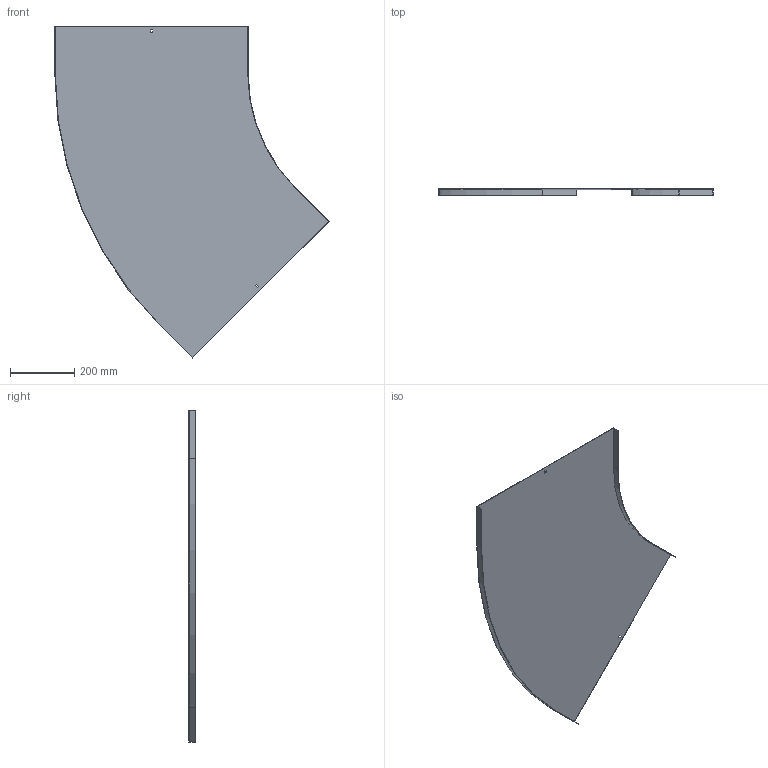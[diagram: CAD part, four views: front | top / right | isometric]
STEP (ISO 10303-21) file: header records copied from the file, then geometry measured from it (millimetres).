
FILE_DESCRIPTION (( 'STEP AP214' ), '1' );
FILE_NAME ('11N5R600.step', '2025-02-21T10:50:08', ( '' ), ( '' ), 'SwSTEP 2.0', 'SolidWorks 2023', '' );
FILE_SCHEMA (( 'AUTOMOTIVE_DESIGN' ));
Length unit declared in the file: millimetre
Products named in the file (1): 11N5R600
Bounding box: 855.07 x 20 x 1034.94 mm (x, y, z)
Volume: 891010.3 mm3; surface area: 1192811.7 mm2
Topology: 1 solids, 1 shells, 26 faces, 72 edges, 48 vertices
Faces by surface type: plane 22, cylinder 4
Entity records: 855 total; most frequent: CARTESIAN_POINT 147, ORIENTED_EDGE 144, DIRECTION 134, EDGE_CURVE 72, LINE 64, VECTOR 64, VERTEX_POINT 48, AXIS2_PLACEMENT_3D 35
